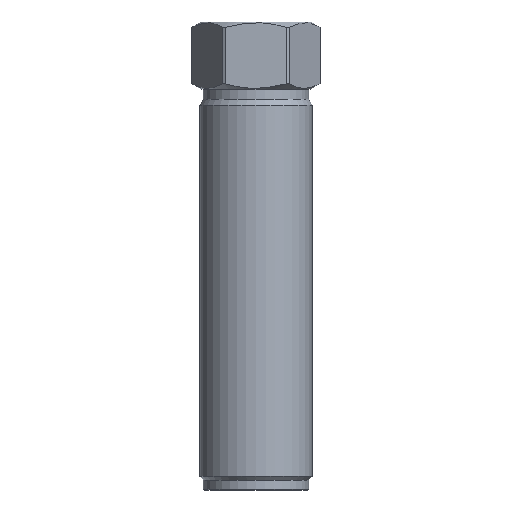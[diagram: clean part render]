
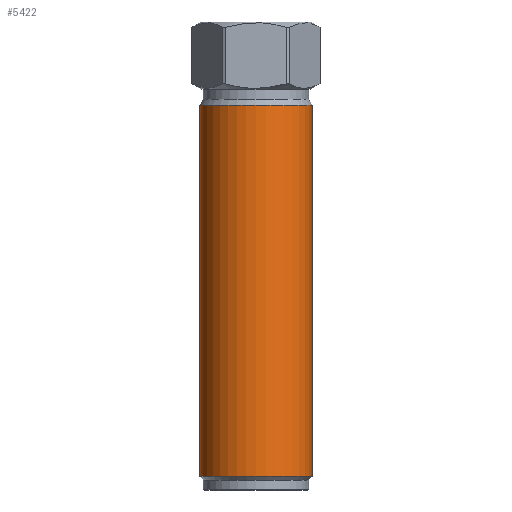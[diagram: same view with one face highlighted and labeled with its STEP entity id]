
A CAD part, front view. The second image highlights one B-rep face of the part: STEP entity #5422.
In plain terms, the highlighted cylindrical face has radius 18 mm (diameter 36 mm), a full revolution.
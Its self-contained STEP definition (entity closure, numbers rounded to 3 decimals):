
#35=CYLINDRICAL_SURFACE('',#5619,18.);
#76=CIRCLE('',#5617,18.);
#77=CIRCLE('',#5618,18.);
#78=CIRCLE('',#5620,18.);
#79=CIRCLE('',#5621,18.);
#534=FACE_OUTER_BOUND('',#844,.T.);
#844=EDGE_LOOP('',(#4984,#4985,#4986,#4987,#4988,#4989));
#1596=LINE('',#9403,#2056);
#2056=VECTOR('',#6439,18.);
#2589=VERTEX_POINT('',#9393);
#2590=VERTEX_POINT('',#9394);
#2591=VERTEX_POINT('',#9399);
#2592=VERTEX_POINT('',#9400);
#3387=EDGE_CURVE('',#2589,#2590,#76,.T.);
#3388=EDGE_CURVE('',#2590,#2589,#77,.T.);
#3390=EDGE_CURVE('',#2591,#2592,#78,.T.);
#3391=EDGE_CURVE('',#2592,#2591,#79,.T.);
#3392=EDGE_CURVE('',#2592,#2590,#1596,.T.);
#4984=ORIENTED_EDGE('',*,*,#3390,.F.);
#4985=ORIENTED_EDGE('',*,*,#3391,.F.);
#4986=ORIENTED_EDGE('',*,*,#3392,.T.);
#4987=ORIENTED_EDGE('',*,*,#3388,.T.);
#4988=ORIENTED_EDGE('',*,*,#3387,.T.);
#4989=ORIENTED_EDGE('',*,*,#3392,.F.);
#5422=ADVANCED_FACE('',(#534),#35,.T.);
#5617=AXIS2_PLACEMENT_3D('',#9395,#6428,#6429);
#5618=AXIS2_PLACEMENT_3D('',#9396,#6430,#6431);
#5619=AXIS2_PLACEMENT_3D('',#9398,#6433,#6434);
#5620=AXIS2_PLACEMENT_3D('',#9401,#6435,#6436);
#5621=AXIS2_PLACEMENT_3D('',#9402,#6437,#6438);
#6428=DIRECTION('center_axis',(0.,0.,
-1.));
#6429=DIRECTION('ref_axis',(1.,0.,0.));
#6430=DIRECTION('center_axis',(0.,0.,
-1.));
#6431=DIRECTION('ref_axis',(1.,0.,0.));
#6433=DIRECTION('center_axis',(0.,0.,
-1.));
#6434=DIRECTION('ref_axis',(1.,0.,0.));
#6435=DIRECTION('center_axis',(0.,0.,
-1.));
#6436=DIRECTION('ref_axis',(1.,0.,0.));
#6437=DIRECTION('center_axis',(0.,0.,
-1.));
#6438=DIRECTION('ref_axis',(1.,0.,0.));
#6439=DIRECTION('',(0.,0.,1.));
#9393=CARTESIAN_POINT('',(18.,0.,123.3));
#9394=CARTESIAN_POINT('',(-18.,0.,123.3));
#9395=CARTESIAN_POINT('Origin',(0.,0.,
123.3));
#9396=CARTESIAN_POINT('Origin',(0.,0.,
123.3));
#9398=CARTESIAN_POINT('Origin',(0.,0.,
63.825));
#9399=CARTESIAN_POINT('',(18.,0.,4.35));
#9400=CARTESIAN_POINT('',(-18.,0.,4.35));
#9401=CARTESIAN_POINT('Origin',(0.,0.,
4.35));
#9402=CARTESIAN_POINT('Origin',(0.,0.,
4.35));
#9403=CARTESIAN_POINT('',(-18.,0.,63.825));
